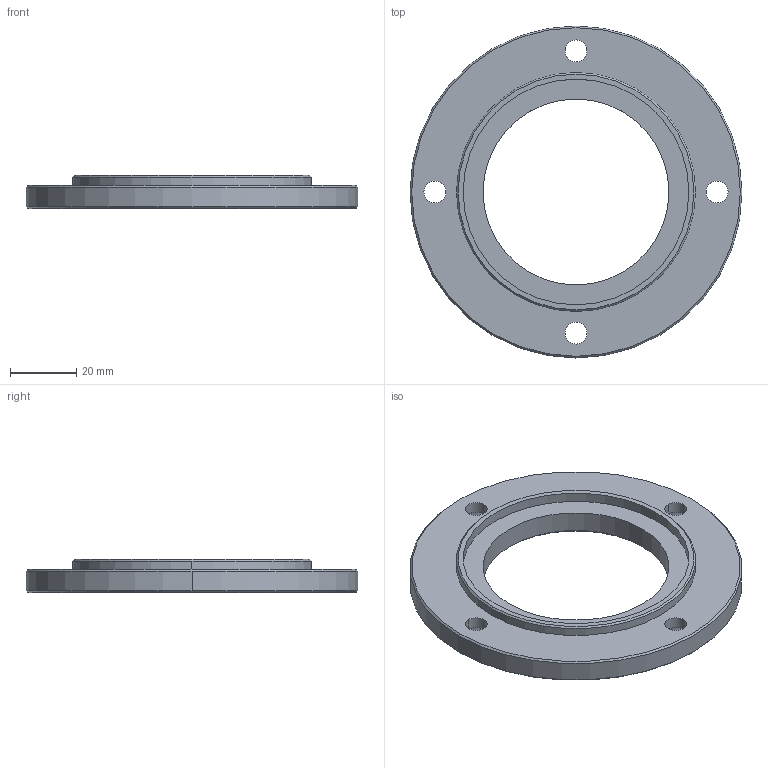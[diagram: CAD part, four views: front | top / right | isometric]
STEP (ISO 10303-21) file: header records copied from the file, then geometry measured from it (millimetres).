
FILE_DESCRIPTION (( 'STEP AP203' ), '1' );
FILE_NAME ('YWSD-2026-03-01-04=003 粣創揤裔I.STEP', '2026-07-24T07:33:40', ( 'Windows 蚚誧' ), ( '' ), 'SwSTEP 2.0', 'SolidWorks 2024', '' );
FILE_SCHEMA (( 'CONFIG_CONTROL_DESIGN' ));
Length unit declared in the file: millimetre
Products named in the file (1): YWSD-2026-03-01-04=003 轴承压盖I
Bounding box: 100 x 100 x 10 mm (x, y, z)
Volume: 37317.2 mm3; surface area: 15431.2 mm2
Topology: 1 solids, 1 shells, 36 faces, 80 edges, 48 vertices
Faces by surface type: cone 16, cylinder 16, plane 4
Entity records: 1101 total; most frequent: DIRECTION 202, CARTESIAN_POINT 165, ORIENTED_EDGE 160, AXIS2_PLACEMENT_3D 85, EDGE_CURVE 80, CIRCLE 48, EDGE_LOOP 48, VERTEX_POINT 48
